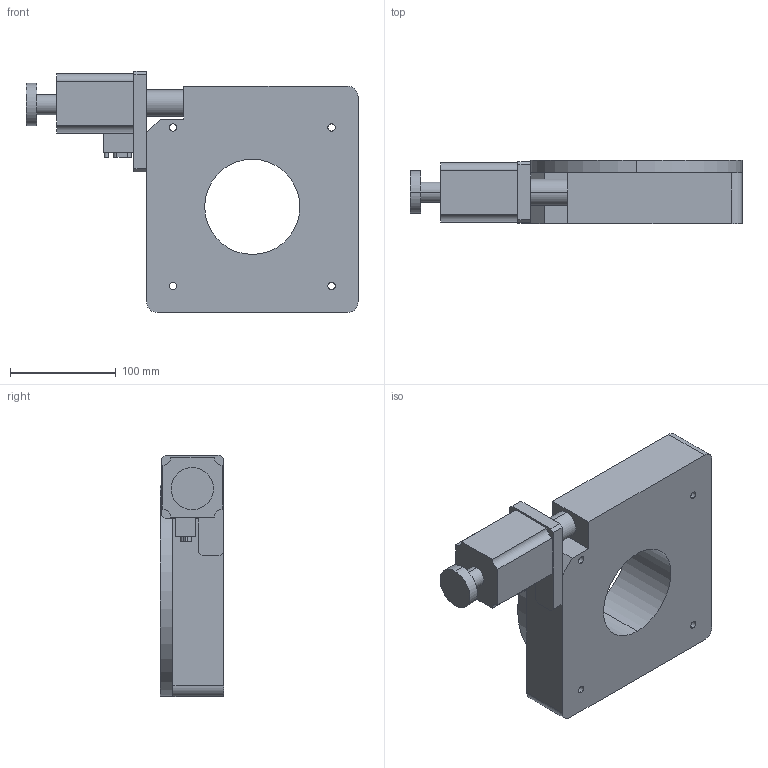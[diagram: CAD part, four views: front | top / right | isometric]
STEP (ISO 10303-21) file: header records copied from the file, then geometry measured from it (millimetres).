
FILE_DESCRIPTION (( 'STEP AP214' ), '1' );
FILE_NAME ('PX110-200.STEP', '2022-09-17T08:38:24', ( '' ), ( '' ), 'SwSTEP 2.0', 'SolidWorks 2017', '' );
FILE_SCHEMA (( 'AUTOMOTIVE_DESIGN' ));
Length unit declared in the file: millimetre
Products named in the file (1): PX110-200
Bounding box: 314 x 60 x 228 mm (x, y, z)
Volume: 2283902.6 mm3; surface area: 182524.4 mm2
Topology: 1 solids, 1 shells, 432 faces, 1129 edges, 684 vertices
Faces by surface type: plane 155, cylinder 121, cone 80, bspline 76
Entity records: 15774 total; most frequent: CARTESIAN_POINT 5865, ORIENTED_EDGE 2098, DIRECTION 1855, EDGE_CURVE 1049, VERTEX_POINT 684, LINE 653, VECTOR 653, AXIS2_PLACEMENT_3D 601
